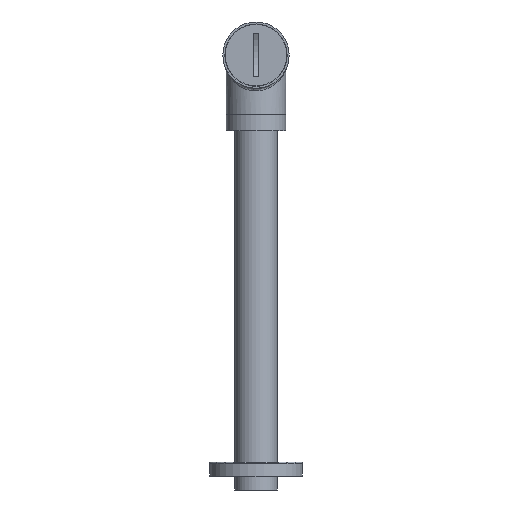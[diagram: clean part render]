
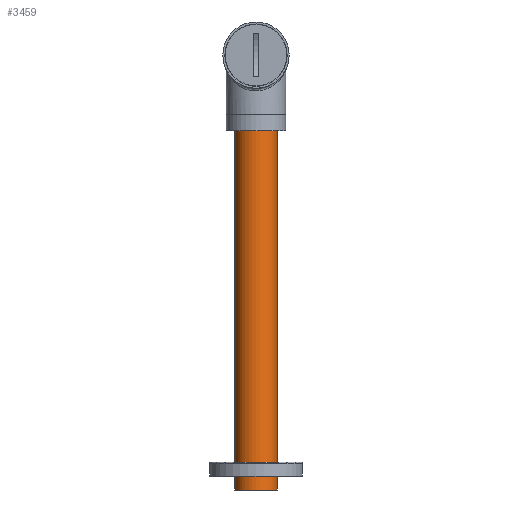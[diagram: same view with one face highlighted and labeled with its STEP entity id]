
A CAD part, front view. The second image highlights one B-rep face of the part: STEP entity #3459.
In plain terms, the highlighted cylindrical face has radius 16 mm (diameter 32 mm), a full revolution.
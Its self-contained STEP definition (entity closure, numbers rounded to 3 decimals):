
#367=FACE_OUTER_BOUND('',#561,.T.);
#561=EDGE_LOOP('',(#2336,#2337,#2338,#2339,#2340,#2341));
#780=LINE('',#5160,#919);
#919=VECTOR('',#4185,16.);
#1075=CIRCLE('',#3693,16.);
#1076=CIRCLE('',#3694,16.);
#1081=CIRCLE('',#3701,16.);
#1082=CIRCLE('',#3702,16.);
#1325=VERTEX_POINT('',#5142);
#1326=VERTEX_POINT('',#5143);
#1331=VERTEX_POINT('',#5157);
#1332=VERTEX_POINT('',#5158);
#1742=EDGE_CURVE('',#1325,#1326,#1075,.T.);
#1743=EDGE_CURVE('',#1326,#1325,#1076,.T.);
#1749=EDGE_CURVE('',#1331,#1332,#1081,.T.);
#1750=EDGE_CURVE('',#1332,#1326,#780,.T.);
#1751=EDGE_CURVE('',#1332,#1331,#1082,.T.);
#2336=ORIENTED_EDGE('',*,*,#1749,.T.);
#2337=ORIENTED_EDGE('',*,*,#1750,.T.);
#2338=ORIENTED_EDGE('',*,*,#1743,.T.);
#2339=ORIENTED_EDGE('',*,*,#1742,.T.);
#2340=ORIENTED_EDGE('',*,*,#1750,.F.);
#2341=ORIENTED_EDGE('',*,*,#1751,.T.);
#3371=CYLINDRICAL_SURFACE('',#3700,16.);
#3459=ADVANCED_FACE('',(#367),#3371,.T.);
#3693=AXIS2_PLACEMENT_3D('',#5144,#4166,#4167);
#3694=AXIS2_PLACEMENT_3D('',#5145,#4168,#4169);
#3700=AXIS2_PLACEMENT_3D('',#5156,#4181,#4182);
#3701=AXIS2_PLACEMENT_3D('',#5159,#4183,#4184);
#3702=AXIS2_PLACEMENT_3D('',#5161,#4186,#4187);
#4166=DIRECTION('center_axis',(0.,0.,
1.));
#4167=DIRECTION('ref_axis',(-1.,0.,0.));
#4168=DIRECTION('center_axis',(0.,0.,
1.));
#4169=DIRECTION('ref_axis',(-1.,0.,0.));
#4181=DIRECTION('center_axis',(0.,0.,
-1.));
#4182=DIRECTION('ref_axis',(1.,0.,0.));
#4183=DIRECTION('center_axis',(0.,0.,
-1.));
#4184=DIRECTION('ref_axis',(-1.,0.,0.));
#4185=DIRECTION('',(0.,0.,-1.));
#4186=DIRECTION('center_axis',(0.,0.,
-1.));
#4187=DIRECTION('ref_axis',(-1.,0.,0.));
#5142=CARTESIAN_POINT('',(-30.5,81.,-281.5));
#5143=CARTESIAN_POINT('',(-62.5,81.,-281.5));
#5144=CARTESIAN_POINT('Origin',(-46.5,81.,-281.5));
#5145=CARTESIAN_POINT('Origin',(-46.5,81.,-281.5));
#5156=CARTESIAN_POINT('Origin',(-46.5,81.,-131.5));
#5157=CARTESIAN_POINT('',(-30.5,81.,18.5));
#5158=CARTESIAN_POINT('',(-62.5,81.,18.5));
#5159=CARTESIAN_POINT('Origin',(-46.5,81.,18.5));
#5160=CARTESIAN_POINT('',(-62.5,81.,-131.5));
#5161=CARTESIAN_POINT('Origin',(-46.5,81.,18.5));
